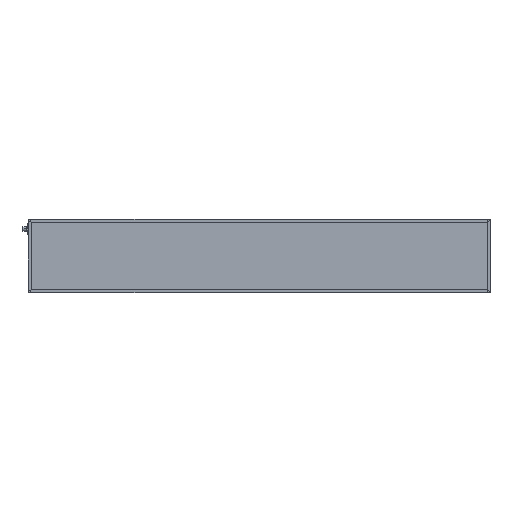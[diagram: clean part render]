
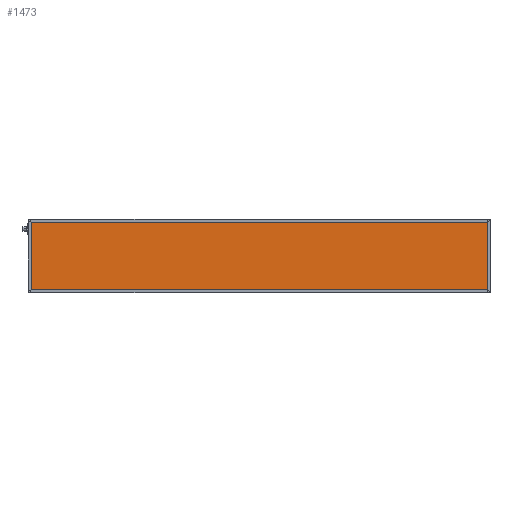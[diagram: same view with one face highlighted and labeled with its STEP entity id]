
A CAD part, top view. The second image highlights one B-rep face of the part: STEP entity #1473.
In plain terms, the highlighted planar face has unit normal (0, 0, 1).
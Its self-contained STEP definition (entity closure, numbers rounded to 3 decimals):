
#412 = CARTESIAN_POINT ( 'NONE',  ( 0., 196., 41.85 ) ) ;
#718 = EDGE_LOOP ( 'NONE', ( #12803, #11962, #16244, #8234 ) ) ;
#1419 = VECTOR ( 'NONE', #11528, 1000. ) ;
#1473 = ADVANCED_FACE ( 'NONE', ( #12563 ), #7181, .F. ) ;
#1552 = VERTEX_POINT ( 'NONE', #14133 ) ;
#2032 = CARTESIAN_POINT ( 'NONE',  ( 4., 0., 41.85 ) ) ;
#2108 = DIRECTION ( 'NONE',  ( -1., 0., 0. ) ) ;
#2109 = EDGE_CURVE ( 'NONE', #16977, #7422, #7201, .T. ) ;
#3014 = DIRECTION ( 'NONE',  ( -1., 0., 0. ) ) ;
#3289 = EDGE_CURVE ( 'NONE', #1552, #16977, #7554, .T. ) ;
#3488 = DIRECTION ( 'NONE',  ( 1., 0., 0. ) ) ;
#4731 = EDGE_CURVE ( 'NONE', #13088, #1552, #6194, .T. ) ;
#4954 = CARTESIAN_POINT ( 'NONE',  ( 1296., 196., 41.85 ) ) ;
#5139 = CARTESIAN_POINT ( 'NONE',  ( 0., 4., 41.85 ) ) ;
#6194 = LINE ( 'NONE', #5139, #9537 ) ;
#6220 = LINE ( 'NONE', #2032, #1419 ) ;
#6509 = DIRECTION ( 'NONE',  ( 0., 1., 0. ) ) ;
#7181 = PLANE ( 'NONE',  #12304 ) ;
#7201 = LINE ( 'NONE', #412, #9796 ) ;
#7422 = VERTEX_POINT ( 'NONE', #9018 ) ;
#7554 = LINE ( 'NONE', #12864, #16522 ) ;
#8234 = ORIENTED_EDGE ( 'NONE', *, *, #4731, .T. ) ;
#8552 = CARTESIAN_POINT ( 'NONE',  ( 4., 4., 41.85 ) ) ;
#8583 = EDGE_CURVE ( 'NONE', #7422, #13088, #6220, .T. ) ;
#9018 = CARTESIAN_POINT ( 'NONE',  ( 4., 196., 41.85 ) ) ;
#9537 = VECTOR ( 'NONE', #3488, 1000. ) ;
#9796 = VECTOR ( 'NONE', #3014, 1000. ) ;
#11528 = DIRECTION ( 'NONE',  ( 0., -1., 0. ) ) ;
#11962 = ORIENTED_EDGE ( 'NONE', *, *, #2109, .T. ) ;
#12304 = AXIS2_PLACEMENT_3D ( 'NONE', #12488, #16663, #2108 ) ;
#12488 = CARTESIAN_POINT ( 'NONE',  ( 0., 0., 41.85 ) ) ;
#12563 = FACE_OUTER_BOUND ( 'NONE', #718, .T. ) ;
#12803 = ORIENTED_EDGE ( 'NONE', *, *, #3289, .T. ) ;
#12864 = CARTESIAN_POINT ( 'NONE',  ( 1296., 0., 41.85 ) ) ;
#13088 = VERTEX_POINT ( 'NONE', #8552 ) ;
#14133 = CARTESIAN_POINT ( 'NONE',  ( 1296., 4., 41.85 ) ) ;
#16244 = ORIENTED_EDGE ( 'NONE', *, *, #8583, .T. ) ;
#16522 = VECTOR ( 'NONE', #6509, 1000. ) ;
#16663 = DIRECTION ( 'NONE',  ( 0., 0., -1. ) ) ;
#16977 = VERTEX_POINT ( 'NONE', #4954 ) ;
